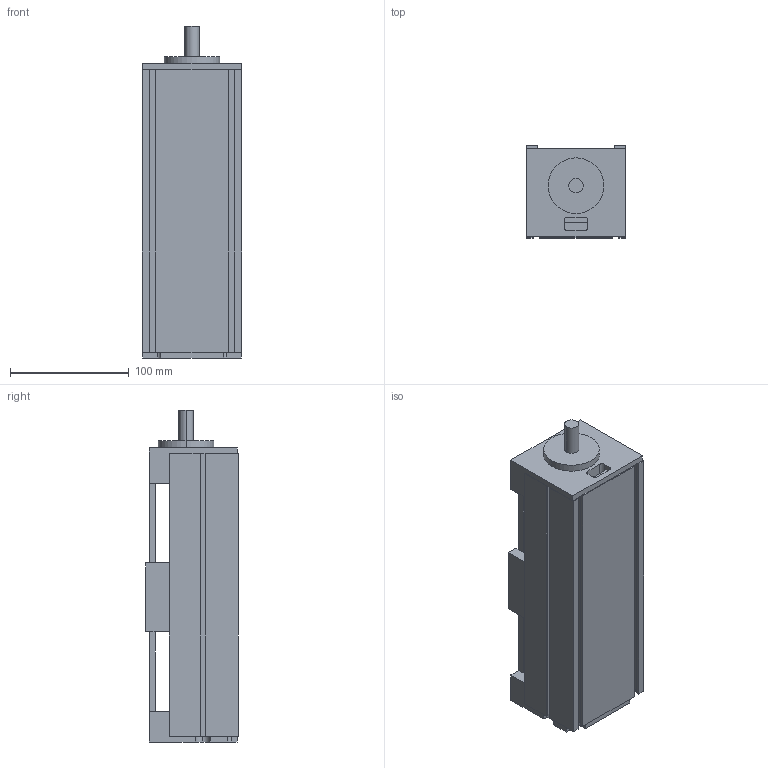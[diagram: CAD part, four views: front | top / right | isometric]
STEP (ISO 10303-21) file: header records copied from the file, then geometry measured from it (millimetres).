
FILE_DESCRIPTION (( 'STEP AP203' ), '1' );
FILE_NAME ('MSX84B-100-LL2020-P7短面板式 .STEP', '2013-11-02T03:08:57', ( '微软用户' ), ( '微软中国' ), 'SwSTEP 2.0', 'SolidWorks 2010', '' );
FILE_SCHEMA (( 'CONFIG_CONTROL_DESIGN' ));
Length unit declared in the file: millimetre
Products named in the file (1): MSX84B-100-LL2020-P7傻醱啣宒 
Bounding box: 84 x 78 x 280 mm (x, y, z)
Volume: 879091 mm3; surface area: 206096.5 mm2
Topology: 1 solids, 1 shells, 158 faces, 449 edges, 286 vertices
Faces by surface type: plane 126, cylinder 24, cone 8
Entity records: 5074 total; most frequent: CARTESIAN_POINT 886, ORIENTED_EDGE 882, DIRECTION 807, EDGE_CURVE 441, VECTOR 393, LINE 393, VERTEX_POINT 286, AXIS2_PLACEMENT_3D 207
